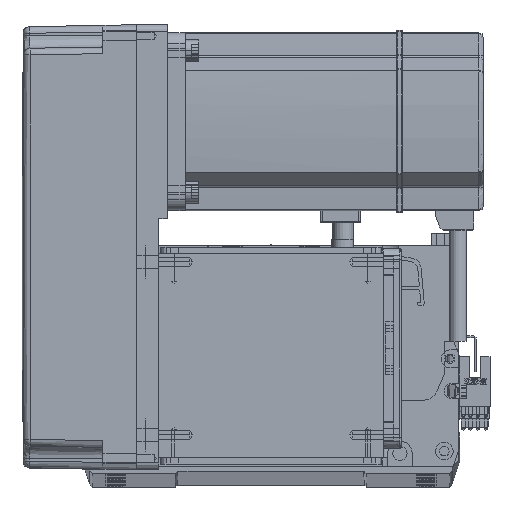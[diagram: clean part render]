
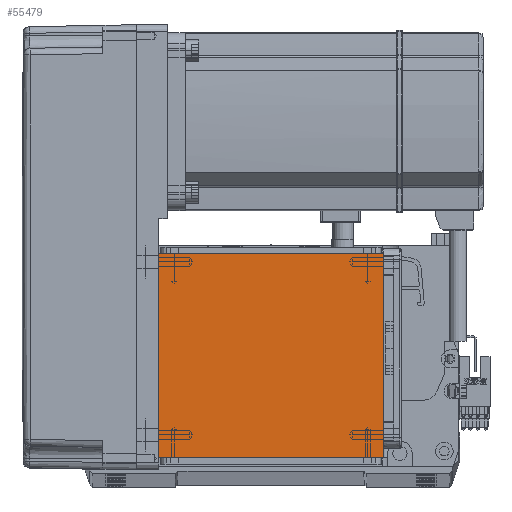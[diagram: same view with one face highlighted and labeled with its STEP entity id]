
A CAD part, top view. The second image highlights one B-rep face of the part: STEP entity #55479.
In plain terms, the highlighted planar face has unit normal (0, 0, 1).
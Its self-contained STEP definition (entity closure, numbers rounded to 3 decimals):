
#211 = CARTESIAN_POINT ( 'NONE',  ( 0., 0., 115. ) ) ;
#593 = VECTOR ( 'NONE', #25228, 1000. ) ;
#2416 = CARTESIAN_POINT ( 'NONE',  ( -70.004, 20., 115. ) ) ;
#2700 = CARTESIAN_POINT ( 'NONE',  ( 50.5, 20., 115. ) ) ;
#5382 = CARTESIAN_POINT ( 'NONE',  ( 50.5, 122., 115. ) ) ;
#8609 = EDGE_CURVE ( 'NONE', #28368, #29903, #19210, .T. ) ;
#9290 = FACE_OUTER_BOUND ( 'NONE', #37414, .T. ) ;
#14248 = VECTOR ( 'NONE', #23523, 1000. ) ;
#16263 = PLANE ( 'NONE',  #45736 ) ;
#19210 = LINE ( 'NONE', #2416, #14248 ) ;
#21426 = LINE ( 'NONE', #5382, #53530 ) ;
#22004 = CARTESIAN_POINT ( 'NONE',  ( -50.5, 20., 115. ) ) ;
#23523 = DIRECTION ( 'NONE',  ( -1., 0., 0. ) ) ;
#25228 = DIRECTION ( 'NONE',  ( 0., -1., 0. ) ) ;
#26592 = VERTEX_POINT ( 'NONE', #31798 ) ;
#28368 = VERTEX_POINT ( 'NONE', #2700 ) ;
#29343 = VERTEX_POINT ( 'NONE', #63163 ) ;
#29903 = VERTEX_POINT ( 'NONE', #22004 ) ;
#31798 = CARTESIAN_POINT ( 'NONE',  ( -50.5, 111.5, 115. ) ) ;
#35973 = ORIENTED_EDGE ( 'NONE', *, *, #63879, .F. ) ;
#36884 = ORIENTED_EDGE ( 'NONE', *, *, #37646, .T. ) ;
#37414 = EDGE_LOOP ( 'NONE', ( #35973, #43466, #49166, #36884 ) ) ;
#37446 = DIRECTION ( 'NONE',  ( 1., 0., 0. ) ) ;
#37646 = EDGE_CURVE ( 'NONE', #28368, #29343, #21426, .T. ) ;
#42162 = DIRECTION ( 'NONE',  ( 0., 1., 0. ) ) ;
#42535 = LINE ( 'NONE', #56805, #593 ) ;
#43466 = ORIENTED_EDGE ( 'NONE', *, *, #61838, .T. ) ;
#45736 = AXIS2_PLACEMENT_3D ( 'NONE', #211, #48505, #37446 ) ;
#48505 = DIRECTION ( 'NONE',  ( 0., 0., 1. ) ) ;
#49166 = ORIENTED_EDGE ( 'NONE', *, *, #8609, .F. ) ;
#53530 = VECTOR ( 'NONE', #42162, 1000. ) ;
#54477 = LINE ( 'NONE', #61752, #57811 ) ;
#55479 = ADVANCED_FACE ( 'NONE', ( #9290 ), #16263, .T. ) ;
#56805 = CARTESIAN_POINT ( 'NONE',  ( -50.5, 122., 115. ) ) ;
#57811 = VECTOR ( 'NONE', #61533, 1000. ) ;
#61533 = DIRECTION ( 'NONE',  ( 1., 0., 0. ) ) ;
#61752 = CARTESIAN_POINT ( 'NONE',  ( -70.004, 111.5, 115. ) ) ;
#61838 = EDGE_CURVE ( 'NONE', #26592, #29903, #42535, .T. ) ;
#63163 = CARTESIAN_POINT ( 'NONE',  ( 50.5, 111.5, 115. ) ) ;
#63879 = EDGE_CURVE ( 'NONE', #26592, #29343, #54477, .T. ) ;
